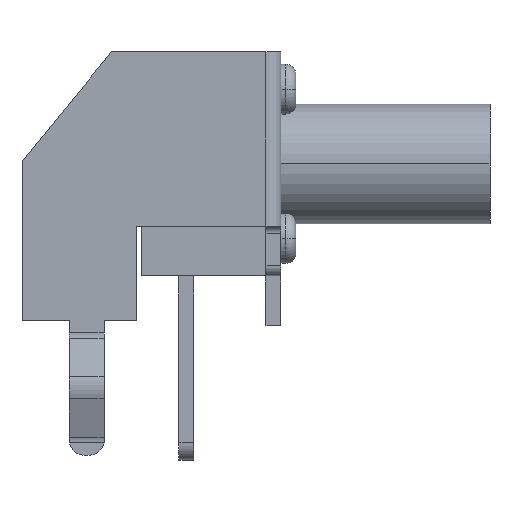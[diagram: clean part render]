
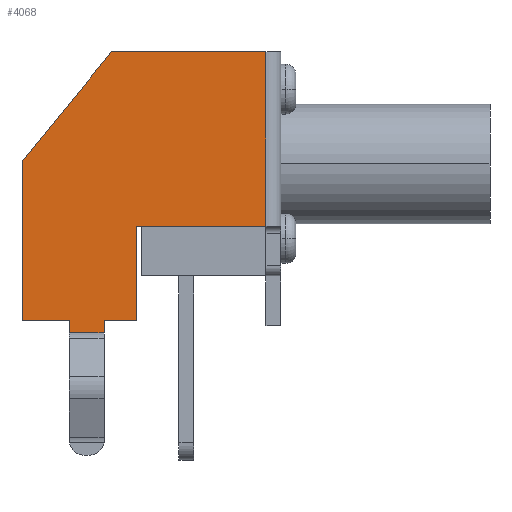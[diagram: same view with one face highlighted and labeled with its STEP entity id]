
A CAD part, left-side view. The second image highlights one B-rep face of the part: STEP entity #4068.
In plain terms, the highlighted planar face has unit normal (-1, 0, 0).
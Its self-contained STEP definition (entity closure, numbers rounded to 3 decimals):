
#2184=DIRECTION('',(0.,0.,-1.));
#2185=VECTOR('',#2184,0.241);
#2186=CARTESIAN_POINT('',(-2.725,3.25,-3.15));
#2187=LINE('',#2186,#2185);
#2440=DIRECTION('',(0.,0.,-1.));
#2441=VECTOR('',#2440,0.241);
#2442=CARTESIAN_POINT('',(-2.725,3.95,-3.15));
#2443=LINE('',#2442,#2441);
#2444=DIRECTION('',(0.,1.,0.));
#2445=VECTOR('',#2444,0.65);
#2446=CARTESIAN_POINT('',(-2.725,2.6,-3.15));
#2447=LINE('',#2446,#2445);
#2448=DIRECTION('',(0.,-1.,0.));
#2449=VECTOR('',#2448,0.7);
#2450=CARTESIAN_POINT('',(-2.725,3.95,-3.391));
#2451=LINE('',#2450,#2449);
#2452=DIRECTION('',(0.,1.,0.));
#2453=VECTOR('',#2452,0.95);
#2454=CARTESIAN_POINT('',(-2.725,3.95,-3.15));
#2455=LINE('',#2454,#2453);
#2456=DIRECTION('',(0.,0.,1.));
#2457=VECTOR('',#2456,3.2);
#2458=CARTESIAN_POINT('',(-2.725,4.9,-3.15));
#2459=LINE('',#2458,#2457);
#2460=DIRECTION('',(0.,0.633,-0.774));
#2461=VECTOR('',#2460,2.843);
#2462=CARTESIAN_POINT('',(-2.725,3.1,2.25));
#2463=LINE('',#2462,#2461);
#2464=DIRECTION('',(0.,1.,0.));
#2465=VECTOR('',#2464,3.1);
#2466=CARTESIAN_POINT('',(-2.725,0.,2.25));
#2467=LINE('',#2466,#2465);
#2468=DIRECTION('',(0.,-1.,0.));
#2469=VECTOR('',#2468,2.6);
#2470=CARTESIAN_POINT('',(-2.725,2.6,-1.25));
#2471=LINE('',#2470,#2469);
#2472=DIRECTION('',(0.,0.,-1.));
#2473=VECTOR('',#2472,1.9);
#2474=CARTESIAN_POINT('',(-2.725,2.6,-1.25));
#2475=LINE('',#2474,#2473);
#2895=DIRECTION('',(0.,0.,1.));
#2896=VECTOR('',#2895,3.5);
#2897=CARTESIAN_POINT('',(-2.725,0.,-1.25));
#2898=LINE('',#2897,#2896);
#2952=CARTESIAN_POINT('',(-2.725,0.,-1.25));
#2953=CARTESIAN_POINT('',(-2.725,0.,2.25));
#2954=VERTEX_POINT('',#2952);
#2955=VERTEX_POINT('',#2953);
#2976=CARTESIAN_POINT('',(-2.725,3.1,2.25));
#2977=CARTESIAN_POINT('',(-2.725,4.9,0.05));
#2978=VERTEX_POINT('',#2976);
#2979=VERTEX_POINT('',#2977);
#3048=CARTESIAN_POINT('',(-2.725,2.6,-1.25));
#3049=CARTESIAN_POINT('',(-2.725,2.6,-3.15));
#3050=VERTEX_POINT('',#3048);
#3051=VERTEX_POINT('',#3049);
#3053=CARTESIAN_POINT('',(-2.725,4.9,-3.15));
#3055=VERTEX_POINT('',#3053);
#3064=CARTESIAN_POINT('',(-2.725,3.95,-3.391));
#3065=CARTESIAN_POINT('',(-2.725,3.25,-3.391));
#3066=VERTEX_POINT('',#3064);
#3067=VERTEX_POINT('',#3065);
#3068=CARTESIAN_POINT('',(-2.725,3.95,-3.15));
#3069=VERTEX_POINT('',#3068);
#3070=CARTESIAN_POINT('',(-2.725,3.25,-3.15));
#3071=VERTEX_POINT('',#3070);
#4045=CARTESIAN_POINT('',(-2.725,-0.3,2.25));
#4046=DIRECTION('',(-1.,0.,0.));
#4047=DIRECTION('',(0.,0.,1.));
#4048=AXIS2_PLACEMENT_3D('',#4045,#4046,#4047);
#4049=PLANE('',#4048);
#4050=ORIENTED_EDGE('',*,*,#3633,.T.);
#4051=ORIENTED_EDGE('',*,*,#3663,.T.);
#4052=ORIENTED_EDGE('',*,*,#3694,.F.);
#4053=ORIENTED_EDGE('',*,*,#4040,.F.);
#4054=ORIENTED_EDGE('',*,*,#3651,.T.);
#4056=ORIENTED_EDGE('',*,*,#4055,.T.);
#4058=ORIENTED_EDGE('',*,*,#4057,.F.);
#4060=ORIENTED_EDGE('',*,*,#4059,.F.);
#4062=ORIENTED_EDGE('',*,*,#4061,.F.);
#4063=ORIENTED_EDGE('',*,*,#3592,.F.);
#4065=ORIENTED_EDGE('',*,*,#4064,.T.);
#4066=EDGE_LOOP('',(#4050,#4051,#4052,#4053,#4054,#4056,#4058,#4060,#4062,#4063,
#4065));
#4067=FACE_OUTER_BOUND('',#4066,.F.);
#3592=EDGE_CURVE('',#3050,#2954,#2471,.T.);
#3633=EDGE_CURVE('',#3051,#3071,#2447,.T.);
#3651=EDGE_CURVE('',#3069,#3055,#2455,.T.);
#3663=EDGE_CURVE('',#3071,#3067,#2187,.T.);
#3694=EDGE_CURVE('',#3066,#3067,#2451,.T.);
#4040=EDGE_CURVE('',#3069,#3066,#2443,.T.);
#4055=EDGE_CURVE('',#3055,#2979,#2459,.T.);
#4057=EDGE_CURVE('',#2978,#2979,#2463,.T.);
#4059=EDGE_CURVE('',#2955,#2978,#2467,.T.);
#4061=EDGE_CURVE('',#2954,#2955,#2898,.T.);
#4064=EDGE_CURVE('',#3050,#3051,#2475,.T.);
#4068=ADVANCED_FACE('',(#4067),#4049,.T.);
